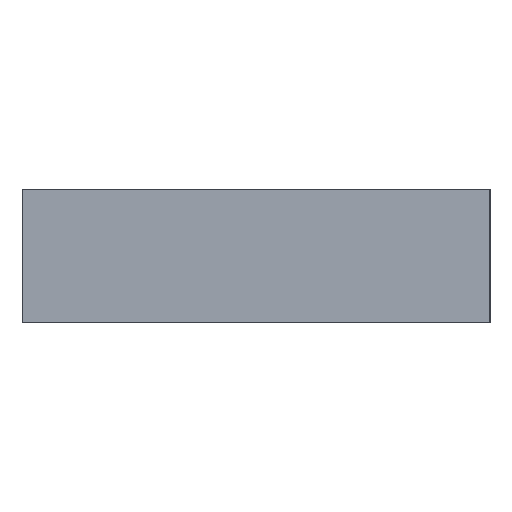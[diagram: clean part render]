
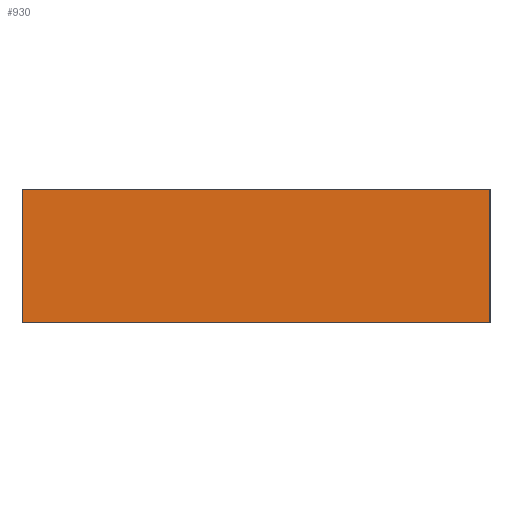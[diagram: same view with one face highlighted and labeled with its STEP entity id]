
A CAD part, left-side view. The second image highlights one B-rep face of the part: STEP entity #930.
In plain terms, the highlighted planar face has unit normal (-1, 0, 0).
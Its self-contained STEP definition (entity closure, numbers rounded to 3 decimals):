
#796=CARTESIAN_POINT('',(-3.937,-2.667,0.0));
#795=VERTEX_POINT('',#796);
#814=CARTESIAN_POINT('',(-3.937,-2.667,1.524));
#813=VERTEX_POINT('',#814);
#822=EDGE_CURVE('',#795,#813,#827,.T.);
#827=LINE('',#796,#829);
#829=VECTOR('',#830,1.524);
#830=DIRECTION('',(0.0,0.0,1.0));
#892=CARTESIAN_POINT('',(-3.937,2.667,0.0));
#891=VERTEX_POINT('',#892);
#902=CARTESIAN_POINT('',(-3.937,2.667,1.524));
#901=VERTEX_POINT('',#902);
#900=EDGE_CURVE('',#901,#891,#905,.T.);
#905=LINE('',#902,#907);
#907=VECTOR('',#908,1.524);
#908=DIRECTION('',(0.0,0.0,-1.0));
#930=ADVANCED_FACE('',(#936),#931,.T.);
#931=PLANE('',#932);
#932=AXIS2_PLACEMENT_3D('',#933,#934,#935);
#933=CARTESIAN_POINT('',(-3.937,2.667,0.0));
#934=DIRECTION('',(-1.0,0.0,0.0));
#935=DIRECTION('',(0.,0.,1.));
#936=FACE_OUTER_BOUND('',#937,.T.);
#937=EDGE_LOOP('',(#938,#948,#958,#968));
#939=EDGE_CURVE('',#795,#891,#944,.T.);
#944=LINE('',#796,#946);
#946=VECTOR('',#947,5.334);
#947=DIRECTION('',(0.0,1.0,0.0));
#938=ORIENTED_EDGE('',*,*,#939,.F.);
#948=ORIENTED_EDGE('',*,*,#822,.T.);
#959=EDGE_CURVE('',#901,#813,#964,.T.);
#964=LINE('',#902,#966);
#966=VECTOR('',#967,5.334);
#967=DIRECTION('',(0.0,-1.0,0.0));
#958=ORIENTED_EDGE('',*,*,#959,.F.);
#968=ORIENTED_EDGE('',*,*,#900,.T.);
